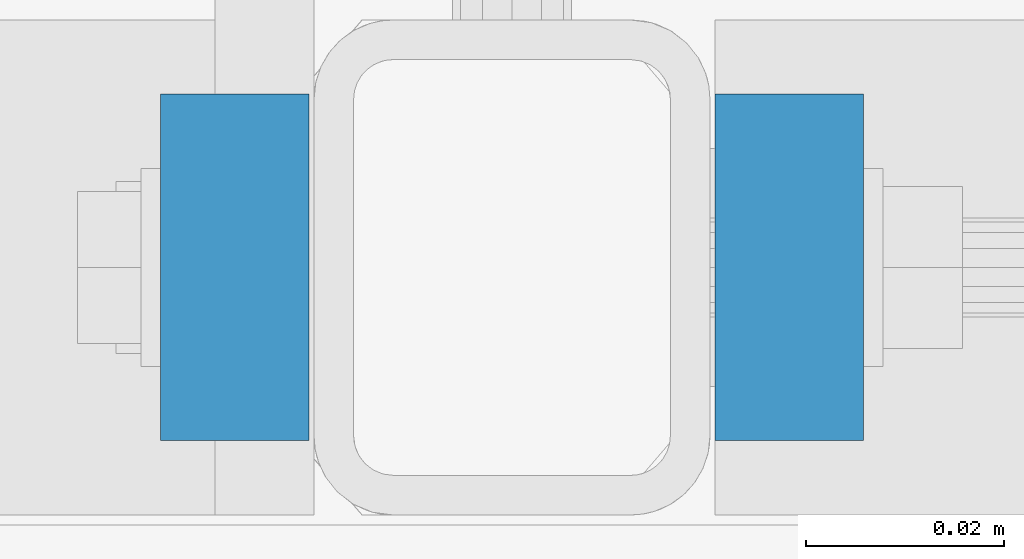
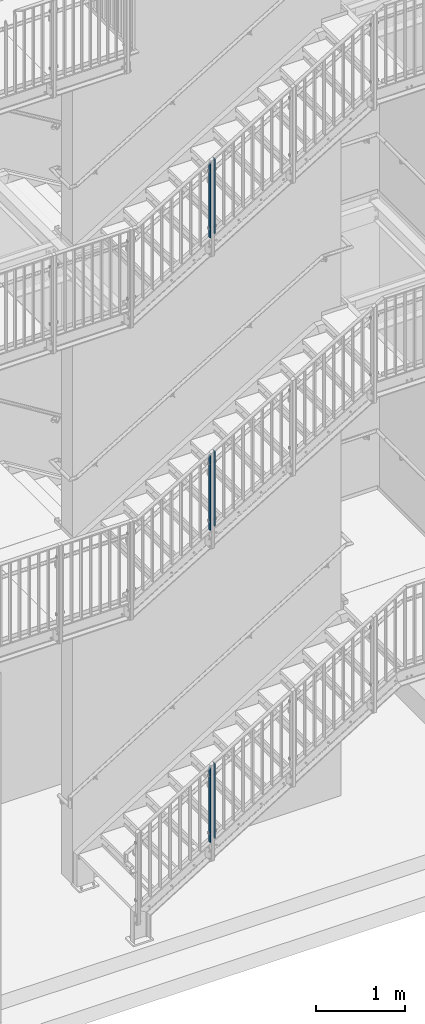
# One storey, part 10 of 410: 6 columns, 12 openings.
"""IFC2X3 building model written with IfcOpenShell, lengths in millimetres."""

from ifc_helpers import new_model, entity, si_unit, converted_unit, frame, frame_2d, origin, origin_with_axes, origin_2d, place, context, project, spatial, rectangle, circle, extrude, material, element, save


model = new_model("IFC2X3")

# Units and contexts
model_context = context("Model", 3, precision=1e-09, world=origin_with_axes())
ifc_project = project(units=[si_unit("LENGTHUNIT", "METRE", prefix="MILLI"), si_unit("AREAUNIT", "SQUARE_METRE"), si_unit("VOLUMEUNIT", "CUBIC_METRE"), converted_unit("PLANEANGLEUNIT", "DEGREE", entity("IfcPlaneAngleMeasure", 0.01745329), si_unit("PLANEANGLEUNIT", "RADIAN"), dimensions=[0, 0, 0, 0, 0, 0, 0])], contexts=[model_context])

# Site, building, storey
site_placement = place(None, origin_with_axes())
site = spatial("IfcSite", under=ifc_project, at=site_placement, Name="mKR Teilneubau & Sanierung BA1 - Ostfildern", CompositionType="ELEMENT")
building_placement = place(site_placement, origin_with_axes())
building = spatial("IfcBuilding", under=site, at=building_placement, Name="Struktur 1", CompositionType="ELEMENT")
storey_placement = place(building_placement, origin_with_axes())
storey = spatial("IfcBuildingStorey", under=building, at=storey_placement, Name="Default Storey", CompositionType="ELEMENT", Elevation=0.0)

# Column, openings
ifc_material = material(Name="S235JR")
column_1_placement = place(None, frame((-762.998531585, 15405.999999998, 4620.856886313), z_axis=(0.0, 0.0, -1.0), x_axis=(1.0, 0.0, 0.0)))
column_1 = element("IfcColumn", 1, at=column_1_placement, inside=storey, material=ifc_material, Name="-", ObjectType="-", context=model_context, shape_type="SweptSolid", body=[
    extrude(rectangle(XDim=15.0, YDim=35.0, at=origin_2d()), origin(), (0.0, 0.0, -1.0), 1025.546889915),
])
opening_1_placement = place(column_1_placement, frame((8.0, -6.001, -125.716783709), z_axis=(1.0, 0.0, 0.0), x_axis=(0.0, 1.0, 0.0)))
element("IfcOpeningElement", 2, at=opening_1_placement, cuts=column_1, ObjectType="Opening", context=model_context, shape_type="SweptSolid", body=[
    extrude(circle(Radius=6.001, at=frame_2d((6.001, 0.0), x_axis=(1.0, 0.0))), origin(), (0.0, 0.0, -1.0), 16.0),
])
opening_2_placement = place(column_1_placement, frame((8.0, -6.001, -910.716783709), z_axis=(1.0, 0.0, 0.0), x_axis=(0.0, 1.0, 0.0)))
element("IfcOpeningElement", 3, at=opening_2_placement, cuts=column_1, ObjectType="Opening", context=model_context, shape_type="SweptSolid", body=[
    extrude(circle(Radius=6.001, at=frame_2d((6.001, 0.0), x_axis=(1.0, 0.0))), origin(), (0.0, 0.0, -1.0), 16.0),
])

column_2_placement = place(None, frame((-706.998531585, 15405.999999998, 4659.326698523), z_axis=(0.0, 0.0, -1.0), x_axis=(1.0, 0.0, 0.0)))
column_2 = element("IfcColumn", 4, at=column_2_placement, inside=storey, material=ifc_material, Name="-", ObjectType="-", context=model_context, shape_type="SweptSolid", body=[
    extrude(rectangle(XDim=15.0, YDim=35.0, at=origin_2d()), origin(), (0.0, 0.0, -1.0), 1025.546889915),
])
opening_3_placement = place(column_2_placement, frame((8.0, -6.001, -87.246971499), z_axis=(1.0, 0.0, 0.0), x_axis=(0.0, 1.0, 0.0)))
element("IfcOpeningElement", 5, at=opening_3_placement, cuts=column_2, ObjectType="Opening", context=model_context, shape_type="SweptSolid", body=[
    extrude(circle(Radius=6.001, at=frame_2d((6.001, 0.0), x_axis=(1.0, 0.0))), origin(), (0.0, 0.0, -1.0), 16.0),
])
opening_4_placement = place(column_2_placement, frame((8.0, -6.001, -872.246971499), z_axis=(1.0, 0.0, 0.0), x_axis=(0.0, 1.0, 0.0)))
element("IfcOpeningElement", 6, at=opening_4_placement, cuts=column_2, ObjectType="Opening", context=model_context, shape_type="SweptSolid", body=[
    extrude(circle(Radius=6.001, at=frame_2d((6.001, 0.0), x_axis=(1.0, 0.0))), origin(), (0.0, 0.0, -1.0), 16.0),
])

column_3_placement = place(None, frame((-706.998531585, 15405.999999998, 655.471007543), z_axis=(0.0, 0.0, -1.0), x_axis=(1.0, 0.0, 0.0)))
column_3 = element("IfcColumn", 7, at=column_3_placement, inside=storey, material=ifc_material, Name="-", ObjectType="-", context=model_context, shape_type="SweptSolid", body=[
    extrude(rectangle(XDim=15.0, YDim=35.0, at=origin_2d()), origin(), (0.0, 0.0, -1.0), 1025.668776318),
])
opening_5_placement = place(column_3_placement, frame((8.0, -6.001, -87.401674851), z_axis=(1.0, 0.0, 0.0), x_axis=(0.0, 1.0, 0.0)))
element("IfcOpeningElement", 8, at=opening_5_placement, cuts=column_3, ObjectType="Opening", context=model_context, shape_type="SweptSolid", body=[
    extrude(circle(Radius=6.001, at=frame_2d((6.001, 0.0), x_axis=(1.0, 0.0))), origin(), (0.0, 0.0, -1.0), 16.0),
])
opening_6_placement = place(column_3_placement, frame((8.0, -6.001, -872.401674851), z_axis=(1.0, 0.0, 0.0), x_axis=(0.0, 1.0, 0.0)))
element("IfcOpeningElement", 9, at=opening_6_placement, cuts=column_3, ObjectType="Opening", context=model_context, shape_type="SweptSolid", body=[
    extrude(circle(Radius=6.001, at=frame_2d((6.001, 0.0), x_axis=(1.0, 0.0))), origin(), (0.0, 0.0, -1.0), 16.0),
])

column_4_placement = place(None, frame((-762.998531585, 15405.999999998, 617.261352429), z_axis=(0.0, 0.0, -1.0), x_axis=(1.0, 0.0, 0.0)))
column_4 = element("IfcColumn", 10, at=column_4_placement, inside=storey, material=ifc_material, Name="-", ObjectType="-", context=model_context, shape_type="SweptSolid", body=[
    extrude(rectangle(XDim=15.0, YDim=35.0, at=origin_2d()), origin(), (0.0, 0.0, -1.0), 1025.668776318),
])
opening_7_placement = place(column_4_placement, frame((8.0, -6.001, -125.611329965), z_axis=(1.0, 0.0, 0.0), x_axis=(0.0, 1.0, 0.0)))
element("IfcOpeningElement", 11, at=opening_7_placement, cuts=column_4, ObjectType="Opening", context=model_context, shape_type="SweptSolid", body=[
    extrude(circle(Radius=6.001, at=frame_2d((6.001, 0.0), x_axis=(1.0, 0.0))), origin(), (0.0, 0.0, -1.0), 16.0),
])
opening_8_placement = place(column_4_placement, frame((8.0, -6.001, -910.611329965), z_axis=(1.0, 0.0, 0.0), x_axis=(0.0, 1.0, 0.0)))
element("IfcOpeningElement", 12, at=opening_8_placement, cuts=column_4, ObjectType="Opening", context=model_context, shape_type="SweptSolid", body=[
    extrude(circle(Radius=6.001, at=frame_2d((6.001, 0.0), x_axis=(1.0, 0.0))), origin(), (0.0, 0.0, -1.0), 16.0),
])

column_5_placement = place(None, frame((-706.998531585, 15405.999999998, -2593.272830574), z_axis=(0.0, 0.0, 1.0), x_axis=(-1.0, 0.0, 0.0)))
column_5 = element("IfcColumn", 13, at=column_5_placement, inside=storey, material=ifc_material, Name="-", ObjectType="-", context=model_context, shape_type="SweptSolid", body=[
    extrude(rectangle(XDim=15.0, YDim=35.0, at=origin_2d()), origin(), (0.0, 0.0, -1.0), 1025.117869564),
])
opening_9_placement = place(column_5_placement, frame((-8.0, -6.001, -938.415191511), z_axis=(-1.0, 0.0, 0.0), x_axis=(0.0, -1.0, 0.0)))
element("IfcOpeningElement", 14, at=opening_9_placement, cuts=column_5, ObjectType="Opening", context=model_context, shape_type="SweptSolid", body=[
    extrude(circle(Radius=6.001, at=frame_2d((-6.001, 0.0), x_axis=(1.0, 0.0))), origin(), (0.0, 0.0, -1.0), 16.0),
])
opening_10_placement = place(column_5_placement, frame((-8.0, -6.001, -153.415191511), z_axis=(-1.0, 0.0, 0.0), x_axis=(0.0, -1.0, 0.0)))
element("IfcOpeningElement", 15, at=opening_10_placement, cuts=column_5, ObjectType="Opening", context=model_context, shape_type="SweptSolid", body=[
    extrude(circle(Radius=6.001, at=frame_2d((-6.001, 0.0), x_axis=(1.0, 0.0))), origin(), (0.0, 0.0, -1.0), 16.0),
])

column_6_placement = place(None, frame((-762.998531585, 15405.999999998, -2632.653387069), z_axis=(0.0, 0.0, 1.0), x_axis=(-1.0, 0.0, 0.0)))
column_6 = element("IfcColumn", 16, at=column_6_placement, inside=storey, material=ifc_material, Name="-", ObjectType="-", context=model_context, shape_type="SweptSolid", body=[
    extrude(rectangle(XDim=15.0, YDim=35.0, at=origin_2d()), origin(), (0.0, 0.0, -1.0), 1025.117869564),
])
opening_11_placement = place(column_6_placement, frame((-8.0, -6.001, -899.034635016), z_axis=(-1.0, 0.0, 0.0), x_axis=(0.0, -1.0, 0.0)))
element("IfcOpeningElement", 17, at=opening_11_placement, cuts=column_6, ObjectType="Opening", context=model_context, shape_type="SweptSolid", body=[
    extrude(circle(Radius=6.001, at=frame_2d((-6.001, 0.0), x_axis=(1.0, 0.0))), origin(), (0.0, 0.0, -1.0), 16.0),
])
opening_12_placement = place(column_6_placement, frame((-8.0, -6.001, -114.034635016), z_axis=(-1.0, 0.0, 0.0), x_axis=(0.0, -1.0, 0.0)))
element("IfcOpeningElement", 18, at=opening_12_placement, cuts=column_6, ObjectType="Opening", context=model_context, shape_type="SweptSolid", body=[
    extrude(circle(Radius=6.001, at=frame_2d((-6.001, 0.0), x_axis=(1.0, 0.0))), origin(), (0.0, 0.0, -1.0), 16.0),
])

save(model, "model.ifc")
